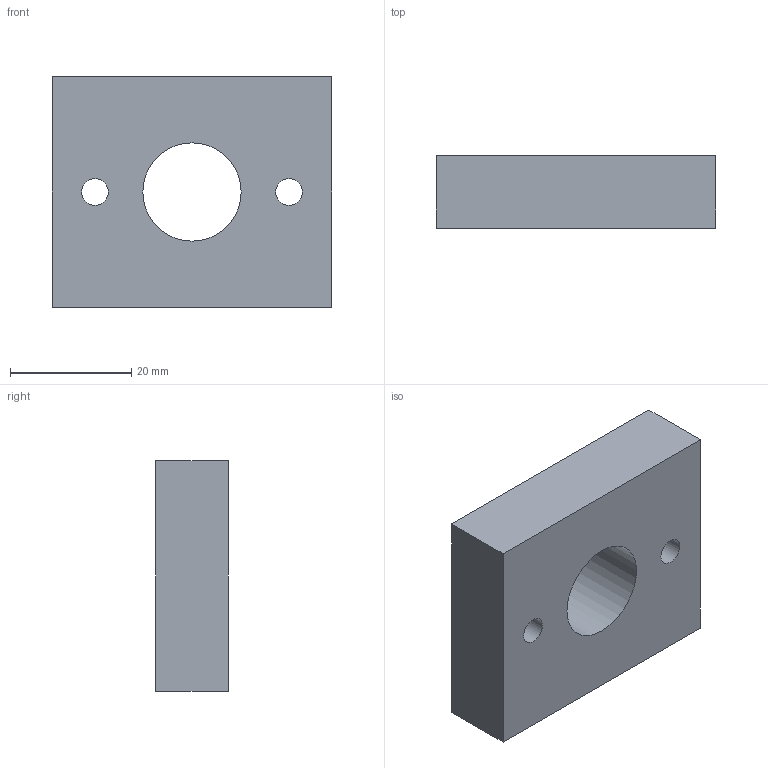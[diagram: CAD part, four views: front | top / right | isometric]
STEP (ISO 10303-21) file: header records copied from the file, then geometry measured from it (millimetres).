
FILE_DESCRIPTION(('Open CASCADE Model'),'2;1');
FILE_NAME('Open CASCADE Shape Model','2026-09-21T16:05:39',('Author'),( 'Open CASCADE'),'Open CASCADE STEP processor 7.8','Open CASCADE 7.8' ,'Unknown');
FILE_SCHEMA(('AUTOMOTIVE_DESIGN { 1 0 10303 214 1 1 1 1 }'));
Length unit declared in the file: millimetre
Products named in the file (1): Open CASCADE STEP translator 7.8 6
Bounding box: 46 x 12 x 38 mm (x, y, z)
Volume: 18137.6 mm3; surface area: 5981.4 mm2
Topology: 1 solids, 1 shells, 9 faces, 21 edges, 14 vertices
Faces by surface type: plane 6, cylinder 3
Full cylindrical faces by diameter (mm): 4.4 x2, 16.2 x1
Entity records: 556 total; most frequent: DIRECTION 89, CARTESIAN_POINT 87, LINE 51, VECTOR 51, ORIENTED_EDGE 42, PCURVE 42, DEFINITIONAL_REPRESENTATION 42, EDGE_CURVE 21
